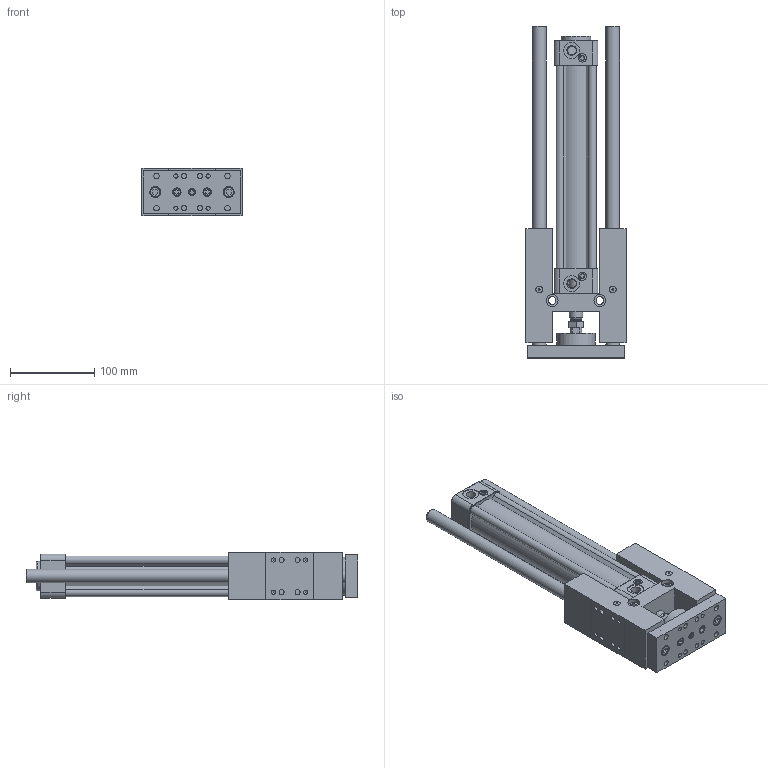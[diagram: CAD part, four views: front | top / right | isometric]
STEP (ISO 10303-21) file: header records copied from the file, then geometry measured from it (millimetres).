
FILE_DESCRIPTION((''),'2;1');
FILE_NAME('I:\3D電子目錄\氣缸\GHB(U)\GHB(U)\GHB(U)40\GHB(U)40x200.stp','2007-10-19T14:51:51',('Administrator'),(''),'Autodesk Inventor 11','Autodesk Inventor 11','');
FILE_SCHEMA(('AUTOMOTIVE_DESIGN { 1 0 10303 214 1 1 1 1 }'));
Length unit declared in the file: millimetre
Products named in the file (1): GHB(U)40
Bounding box: 119 x 393 x 56.2 mm (x, y, z)
Volume: 1082922.8 mm3; surface area: 262905.4 mm2
Topology: 17 solids, 17 shells, 779 faces, 1702 edges, 1054 vertices
Faces by surface type: plane 296, bspline 215, cylinder 170, cone 89, torus 9
Full cylindrical faces by diameter (mm): 2.6 x2, 4.9 x2, 4.917 x4, 5 x4, 5.5 x10, 6 x12, 6.5 x8, 6.8 x1, 7.8 x6, 8 x5, 9 x6, 9.5 x1, 9.9 x1, 10 x5, 10.2 x8, 12 x3, 13 x2, 16 x4, 18 x1, 19 x2, 21 x2, 35 x1, 40 x1, 45 x1
Entity records: 22134 total; most frequent: CARTESIAN_POINT 6597, DIRECTION 3108, ORIENTED_EDGE 2968, EDGE_CURVE 1484, AXIS2_PLACEMENT_3D 1218, EDGE_LOOP 1096, VERTEX_POINT 1022, FACE_OUTER_BOUND 779
